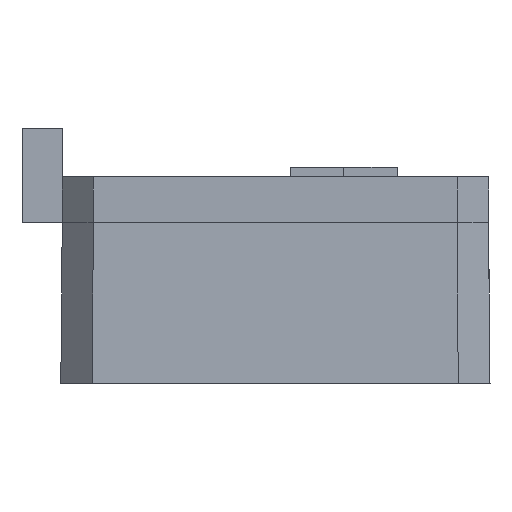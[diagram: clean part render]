
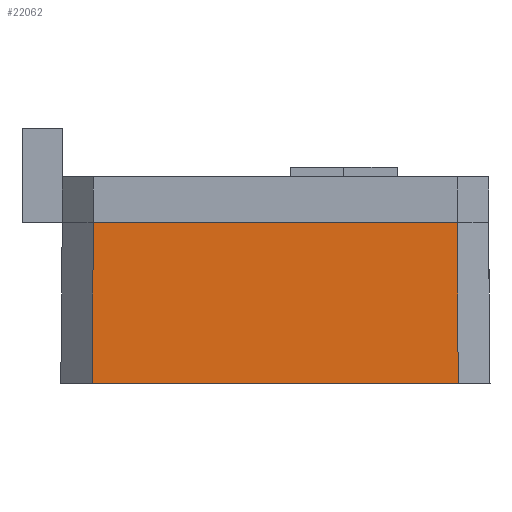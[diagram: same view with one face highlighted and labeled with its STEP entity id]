
A CAD part, left-side view. The second image highlights one B-rep face of the part: STEP entity #22062.
In plain terms, the highlighted planar face has unit normal (-1, 0, 0.009).
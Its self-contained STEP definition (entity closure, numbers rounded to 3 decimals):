
#636 = PLANE ( 'NONE',  #47192 ) ;
#637 = CARTESIAN_POINT ( 'NONE',  ( 8.049, 7.457, 1.813 ) ) ;
#638 = DIRECTION ( 'NONE',  ( -1., 0., 0.009 ) ) ;
#639 = DIRECTION ( 'NONE',  ( -0.009, 0., -1. ) ) ;
#3923 = CARTESIAN_POINT ( 'NONE',  ( 8.065, 56.607, 1.813 ) ) ;
#3927 = CARTESIAN_POINT ( 'NONE',  ( 8.05, 11.307, 1.813 ) ) ;
#3931 = CARTESIAN_POINT ( 'NONE',  ( 7.89, 56.679, -18.187 ) ) ;
#3933 = CARTESIAN_POINT ( 'NONE',  ( 7.876, 11.235, -18.187 ) ) ;
#22062 = ADVANCED_FACE ( 'NONE', ( #45560 ), #636, .T. ) ;
#22556 = LINE ( 'NONE', #24098, #22557 ) ;
#22557 = VECTOR ( 'NONE', #24099, 1000. ) ;
#22588 = LINE ( 'NONE', #24157, #22589 ) ;
#22589 = VECTOR ( 'NONE', #24159, 1000. ) ;
#22590 = LINE ( 'NONE', #24161, #22591 ) ;
#22591 = VECTOR ( 'NONE', #24163, 1000. ) ;
#22592 = LINE ( 'NONE', #24166, #22593 ) ;
#22593 = VECTOR ( 'NONE', #24168, 1000. ) ;
#24098 = CARTESIAN_POINT ( 'NONE',  ( 8.049, 7.457, 1.813 ) ) ;
#24099 = DIRECTION ( 'NONE',  ( 0., -1., 0. ) ) ;
#24157 = CARTESIAN_POINT ( 'NONE',  ( 8.05, 11.307, 1.799 ) ) ;
#24159 = DIRECTION ( 'NONE',  ( 0.009, 0.004, 1. ) ) ;
#24161 = CARTESIAN_POINT ( 'NONE',  ( 8.066, 56.606, 1.991 ) ) ;
#24163 = DIRECTION ( 'NONE',  ( -0.009, 0.004, -1. ) ) ;
#24166 = CARTESIAN_POINT ( 'NONE',  ( 7.875, 7.457, -18.187 ) ) ;
#24168 = DIRECTION ( 'NONE',  ( 0., 1., 0. ) ) ;
#31418 = VERTEX_POINT ( 'NONE', #3923 ) ;
#31422 = VERTEX_POINT ( 'NONE', #3927 ) ;
#31426 = VERTEX_POINT ( 'NONE', #3931 ) ;
#31428 = VERTEX_POINT ( 'NONE', #3933 ) ;
#36961 = EDGE_LOOP ( 'NONE', ( #39525, #39526, #39527, #39528 ) ) ;
#38242 = EDGE_CURVE ( 'NONE', #31418, #31422, #22556, .T. ) ;
#38258 = EDGE_CURVE ( 'NONE', #31428, #31422, #22588, .T. ) ;
#38259 = EDGE_CURVE ( 'NONE', #31418, #31426, #22590, .T. ) ;
#38260 = EDGE_CURVE ( 'NONE', #31428, #31426, #22592, .T. ) ;
#39525 = ORIENTED_EDGE ( 'NONE', *, *, #38258, .T. ) ;
#39526 = ORIENTED_EDGE ( 'NONE', *, *, #38242, .F. ) ;
#39527 = ORIENTED_EDGE ( 'NONE', *, *, #38259, .T. ) ;
#39528 = ORIENTED_EDGE ( 'NONE', *, *, #38260, .F. ) ;
#45560 = FACE_OUTER_BOUND ( 'NONE', #36961, .T. ) ;
#47192 = AXIS2_PLACEMENT_3D ( 'NONE', #637, #638, #639 ) ;
